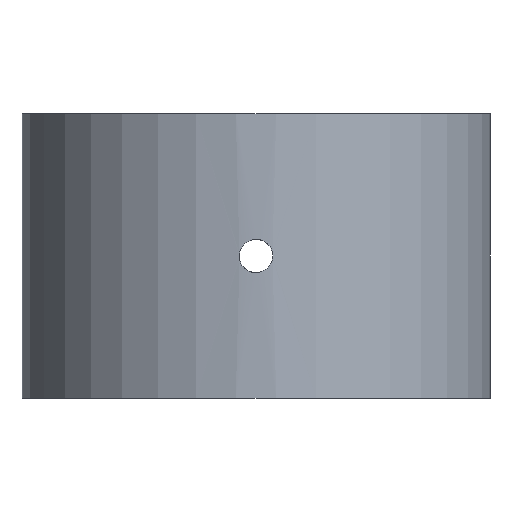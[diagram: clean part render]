
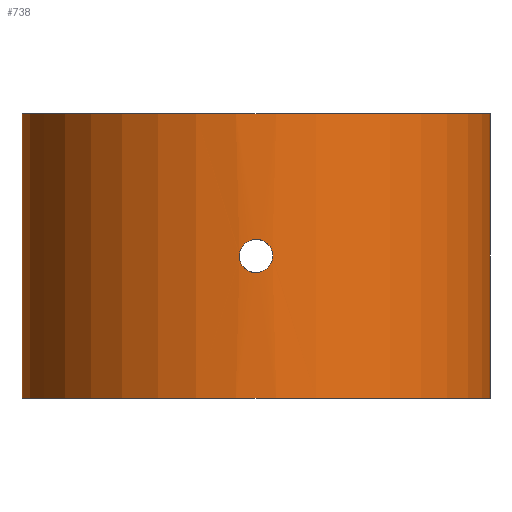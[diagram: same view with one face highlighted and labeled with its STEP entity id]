
A CAD part, left-side view. The second image highlights one B-rep face of the part: STEP entity #738.
In plain terms, the highlighted cylindrical face has radius 21.42 mm (diameter 42.84 mm), a partial arc.
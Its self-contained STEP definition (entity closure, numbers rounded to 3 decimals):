
#19=B_SPLINE_CURVE_WITH_KNOTS('',3,(#1136,#1137,#1138,#1139,#1140,#1141,
#1142,#1143,#1144,#1145,#1146,#1147,#1148,#1149,#1150,#1151,#1152,#1153),
 .UNSPECIFIED.,.F.,.F.,(4,2,2,2,2,2,2,2,4),(0.,0.057,0.113,
0.17,0.226,0.283,0.339,
0.396,0.452),.UNSPECIFIED.);
#20=B_SPLINE_CURVE_WITH_KNOTS('',3,(#1154,#1155,#1156,#1157,#1158,#1159,
#1160,#1161,#1162,#1163,#1164,#1165,#1166,#1167,#1168,#1169,#1170,#1171),
 .UNSPECIFIED.,.F.,.F.,(4,2,2,2,2,2,2,2,4),(0.452,0.509,
0.565,0.622,0.678,0.735,
0.791,0.848,0.904),.UNSPECIFIED.);
#28=FACE_BOUND('',#120,.T.);
#57=CYLINDRICAL_SURFACE('',#805,21.42);
#77=FACE_OUTER_BOUND('',#119,.T.);
#119=EDGE_LOOP('',(#582,#583,#584,#585));
#120=EDGE_LOOP('',(#586,#587));
#148=LINE('',#1068,#225);
#172=LINE('',#1131,#249);
#225=VECTOR('',#859,10.2);
#249=VECTOR('',#909,10.2);
#309=CIRCLE('',#806,21.42);
#310=CIRCLE('',#807,21.42);
#326=VERTEX_POINT('',#1065);
#327=VERTEX_POINT('',#1067);
#352=VERTEX_POINT('',#1128);
#353=VERTEX_POINT('',#1130);
#354=VERTEX_POINT('',#1134);
#355=VERTEX_POINT('',#1135);
#400=EDGE_CURVE('',#326,#327,#148,.T.);
#430=EDGE_CURVE('',#353,#352,#172,.F.);
#432=EDGE_CURVE('',#354,#355,#19,.T.);
#433=EDGE_CURVE('',#355,#354,#20,.T.);
#451=EDGE_CURVE('',#327,#352,#309,.F.);
#452=EDGE_CURVE('',#326,#353,#310,.F.);
#582=ORIENTED_EDGE('',*,*,#451,.F.);
#583=ORIENTED_EDGE('',*,*,#400,.F.);
#584=ORIENTED_EDGE('',*,*,#452,.T.);
#585=ORIENTED_EDGE('',*,*,#430,.T.);
#586=ORIENTED_EDGE('',*,*,#432,.T.);
#587=ORIENTED_EDGE('',*,*,#433,.T.);
#738=ADVANCED_FACE('',(#77,#28),#57,.T.);
#805=AXIS2_PLACEMENT_3D('',#1233,#939,#940);
#806=AXIS2_PLACEMENT_3D('',#1234,#941,#942);
#807=AXIS2_PLACEMENT_3D('',#1235,#943,#944);
#859=DIRECTION('',(0.,0.,1.));
#909=DIRECTION('',(0.,0.,-1.));
#939=DIRECTION('center_axis',(0.,0.,1.));
#940=DIRECTION('ref_axis',(-1.,0.,0.));
#941=DIRECTION('center_axis',(0.,0.,-1.));
#942=DIRECTION('ref_axis',(1.,0.,0.));
#943=DIRECTION('center_axis',(0.,0.,-1.));
#944=DIRECTION('ref_axis',(1.,0.,0.));
#1065=CARTESIAN_POINT('',(9.929,3.5,-0.51));
#1067=CARTESIAN_POINT('',(9.929,3.5,25.5));
#1068=CARTESIAN_POINT('',(9.929,3.5,-0.51));
#1128=CARTESIAN_POINT('',(9.929,-8.638,25.5));
#1130=CARTESIAN_POINT('',(9.929,-8.638,-0.51));
#1131=CARTESIAN_POINT('',(9.929,-8.638,-0.51));
#1134=CARTESIAN_POINT('',(-31.978,-1.039,12.495));
#1135=CARTESIAN_POINT('',(-31.978,-4.099,12.495));
#1136=CARTESIAN_POINT('Ctrl Pts',(-31.978,-1.039,12.495));
#1137=CARTESIAN_POINT('Ctrl Pts',(-31.978,-1.039,12.687));
#1138=CARTESIAN_POINT('Ctrl Pts',(-31.981,-1.077,12.892));
#1139=CARTESIAN_POINT('Ctrl Pts',(-31.991,-1.234,13.269));
#1140=CARTESIAN_POINT('Ctrl Pts',(-31.999,-1.351,13.441));
#1141=CARTESIAN_POINT('Ctrl Pts',(-32.012,-1.623,13.713));
#1142=CARTESIAN_POINT('Ctrl Pts',(-32.02,-1.795,13.83));
#1143=CARTESIAN_POINT('Ctrl Pts',(-32.03,-2.172,13.987));
#1144=CARTESIAN_POINT('Ctrl Pts',(-32.033,-2.377,14.025));
#1145=CARTESIAN_POINT('Ctrl Pts',(-32.033,-2.761,14.025));
#1146=CARTESIAN_POINT('Ctrl Pts',(-32.03,-2.966,13.987));
#1147=CARTESIAN_POINT('Ctrl Pts',(-32.02,-3.343,13.83));
#1148=CARTESIAN_POINT('Ctrl Pts',(-32.012,-3.515,13.713));
#1149=CARTESIAN_POINT('Ctrl Pts',(-31.999,-3.787,13.441));
#1150=CARTESIAN_POINT('Ctrl Pts',(-31.991,-3.904,13.269));
#1151=CARTESIAN_POINT('Ctrl Pts',(-31.981,-4.061,12.892));
#1152=CARTESIAN_POINT('Ctrl Pts',(-31.978,-4.099,12.687));
#1153=CARTESIAN_POINT('Ctrl Pts',(-31.978,-4.099,12.495));
#1154=CARTESIAN_POINT('Ctrl Pts',(-31.978,-4.099,12.495));
#1155=CARTESIAN_POINT('Ctrl Pts',(-31.978,-4.099,12.303));
#1156=CARTESIAN_POINT('Ctrl Pts',(-31.981,-4.061,12.098));
#1157=CARTESIAN_POINT('Ctrl Pts',(-31.991,-3.904,11.721));
#1158=CARTESIAN_POINT('Ctrl Pts',(-31.999,-3.787,11.549));
#1159=CARTESIAN_POINT('Ctrl Pts',(-32.012,-3.515,11.277));
#1160=CARTESIAN_POINT('Ctrl Pts',(-32.02,-3.343,11.16));
#1161=CARTESIAN_POINT('Ctrl Pts',(-32.03,-2.966,11.003));
#1162=CARTESIAN_POINT('Ctrl Pts',(-32.033,-2.761,10.965));
#1163=CARTESIAN_POINT('Ctrl Pts',(-32.033,-2.377,10.965));
#1164=CARTESIAN_POINT('Ctrl Pts',(-32.03,-2.172,11.003));
#1165=CARTESIAN_POINT('Ctrl Pts',(-32.02,-1.795,11.16));
#1166=CARTESIAN_POINT('Ctrl Pts',(-32.012,-1.623,11.277));
#1167=CARTESIAN_POINT('Ctrl Pts',(-31.999,-1.351,11.549));
#1168=CARTESIAN_POINT('Ctrl Pts',(-31.991,-1.234,11.721));
#1169=CARTESIAN_POINT('Ctrl Pts',(-31.981,-1.077,12.098));
#1170=CARTESIAN_POINT('Ctrl Pts',(-31.978,-1.039,12.303));
#1171=CARTESIAN_POINT('Ctrl Pts',(-31.978,-1.039,12.495));
#1233=CARTESIAN_POINT('Origin',(-10.613,-2.569,-0.51));
#1234=CARTESIAN_POINT('Origin',(-10.613,-2.569,25.5));
#1235=CARTESIAN_POINT('Origin',(-10.613,-2.569,-0.51));
